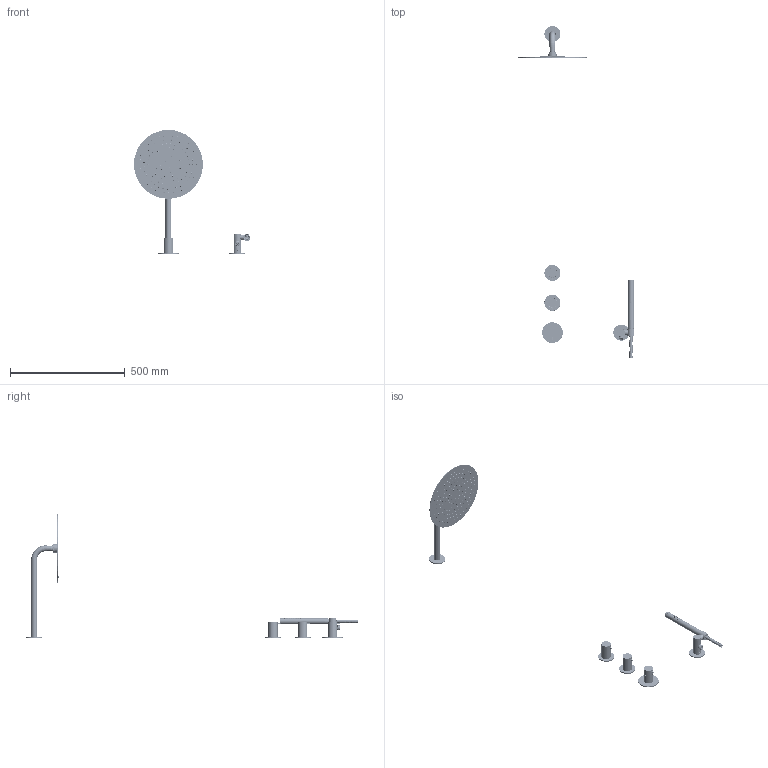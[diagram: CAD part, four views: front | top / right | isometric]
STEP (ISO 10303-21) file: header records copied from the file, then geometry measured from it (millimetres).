
FILE_DESCRIPTION((''),'2;1');
FILE_NAME('57065--_ASM','2025-03-21T12:25:29',('simi1'),(''),'CREO PARAMETRIC BY PTC INC, 2022244','CREO PARAMETRIC BY PTC INC, 2022244','');
FILE_SCHEMA(('CONFIG_CONTROL_DESIGN'));
Products named in the file (98): 46372--; 4396500; 4668000; 46373--_ASM; 44978--; 4642300; 4498000; 46498--_ASM; 46022--; 4600600; 1904300; 44986--; 4498800; 44989--_ASM; 4648800; 4642285; 76709--00_SUB01_ASM; 46493--; 4636100; 46494--_ASM; 4498500; 4653500; 46499--_ASM; 44979--; 44987--; 44990--_ASM; 4498300; 4625100; 76710--00_SUB01_ASM; 46616--; 4424300; 46617--_ASM; 46627--; 4443300; 76607--00_SUB01_ASM; P32600-001_2; SPRAYPLATE; P32500-015_7; SPRAYPLATE_ASSY_ASM; P10100-003_2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
Assembly tree (273 placements, depth 6):
  57065--_ASM
    76709--00_SUB01_ASM
      46373--_ASM
        46372--
        4396500
        4668000
      46498--_ASM
        44978--
        4642300
        4498000
      44989--_ASM
        46022--
        4600600
        1904300
        44986--
        4498800
      4648800
      4642285
    76710--00_SUB01_ASM  x2
      46494--_ASM
        46493--
        4396500
        4636100
      46499--_ASM
        44978--
        4498500
        4653500
      44990--_ASM
        44979--
        4600600
        44987--
        4498800
      4498300
      4625100
    76607--00_SUB01_ASM
      46617--_ASM
        46616--
        4424300
      46627--
      4443300
    91684--00_ASM
      46672--_ASM
        P42702_ASM_21_ASM
          SPRAYPLATE_ASSY_ASM
            P32600-001_2
            SPRAYPLATE
            P32500-015_7  x170
          F200-011_ASM_2_ASM
            P10100-003_2
            P24800-010_2
            30100069_2
          T10367_ASM_1_ASM
            T10364-001_34
            P26500-017_4
    48756--00_ASM
      46883--_ASM
        4420585
        4449100
        46618--
        46884--
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Bounding box: 505.28 x 1445.54 x 540.58 mm (x, y, z)
Volume: 575406.3 mm3; surface area: 702135.3 mm2
Topology: 254 solids, 254 shells, 16703 faces, 45776 edges, 30795 vertices
Faces by surface type: plane 6852, cylinder 4619, torus 2630, cone 1912, bspline 565, sphere 116, revolution 6, extrusion 3
Entity records: 293193 total; most frequent: CARTESIAN_POINT 106033, ORIENTED_EDGE 40180, DIRECTION 36555, EDGE_CURVE 20090, VERTEX_POINT 13163, AXIS2_PLACEMENT_3D 12346, VECTOR 11857, LINE 11854
